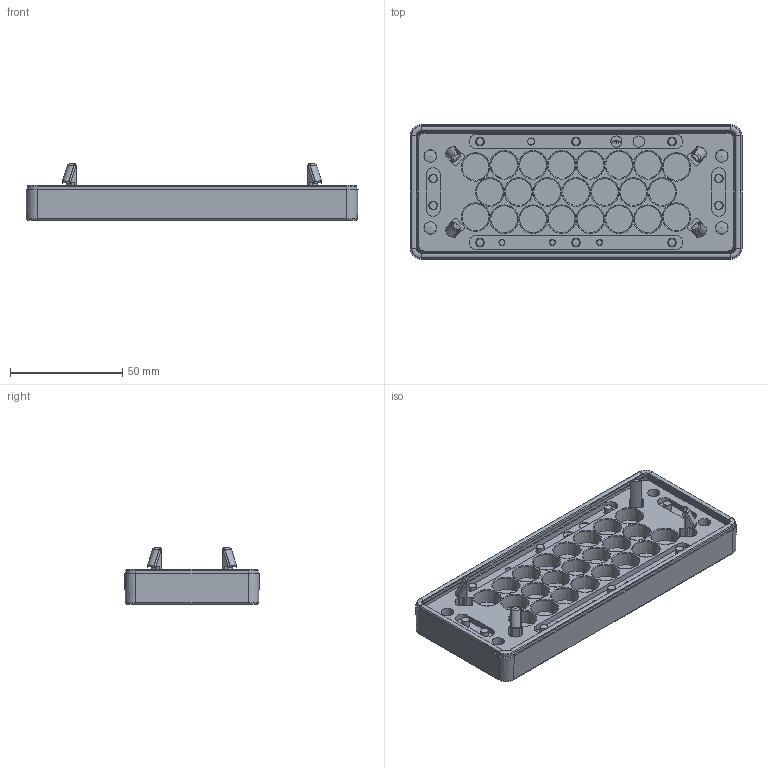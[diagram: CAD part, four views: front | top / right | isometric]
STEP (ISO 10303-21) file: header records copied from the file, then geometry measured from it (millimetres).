
FILE_DESCRIPTION(/* description */ (''),/* implementation_level */ '2;1');
FILE_NAME(/* name */ 'C:\SapWorkDir\Inventor\MP1\ConvertTempPath\87_16_121492_00_A_220620_KDP-X 24-23 ZSB - Blech 1,5-2,0.stp',/* time_stamp */ '2022-06-21T10:14:57+02:00',/* author */ ('BAUER'),/* organization */ (''),/* preprocessor_version */ 'ST-DEVELOPER v16.13',/* originating_system */ 'Autodesk Inventor 2018',/* authorisation */ '');
FILE_SCHEMA (('AUTOMOTIVE_DESIGN { 1 0 10303 214 3 1 1 }'));
Products named in the file (5): 121492; 121388; 105855_MPS_3F1; 105853_MPS_3F1; 104104_MPS_3F1
Assembly tree (4 placements, depth 2):
  121492
    121388
    105855_MPS_3F1
    105853_MPS_3F1
    104104_MPS_3F1
Bounding box: 148 x 60 x 25 mm (x, y, z)
Volume: 72780.6 mm3; surface area: 71611 mm2
Topology: 4 solids, 4 shells, 2842 faces, 7274 edges, 4393 vertices
Faces by surface type: plane 1151, bspline 634, cylinder 441, torus 261, cone 261, sphere 94
Full cylindrical faces by diameter (mm): 2.5 x3, 2.6 x3, 3 x1, 3.1 x1, 3.6 x10, 5 x2, 5.5 x8, 6.5 x4, 7.5 x4
Entity records: 96635 total; most frequent: CARTESIAN_POINT 30519, ORIENTED_EDGE 13816, DIRECTION 13119, EDGE_CURVE 6908, AXIS2_PLACEMENT_3D 4637, VERTEX_POINT 4385, LINE 3845, VECTOR 3845
